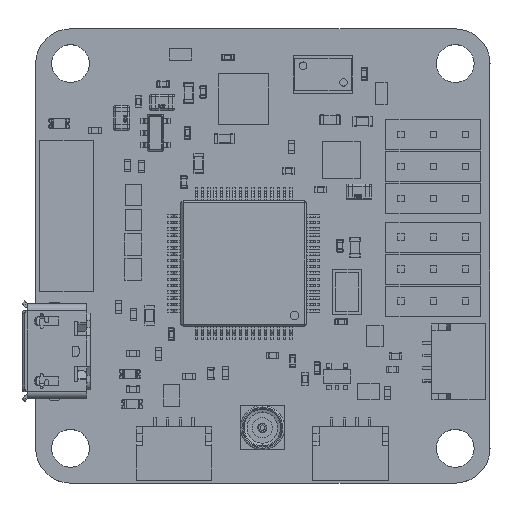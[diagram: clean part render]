
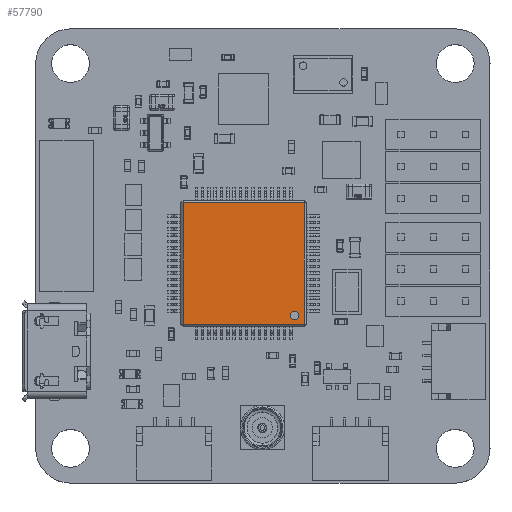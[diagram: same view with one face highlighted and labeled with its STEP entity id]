
A CAD part, top view. The second image highlights one B-rep face of the part: STEP entity #57790.
In plain terms, the highlighted planar face has unit normal (0, 0, 1).
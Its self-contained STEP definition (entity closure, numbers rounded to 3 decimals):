
#49950 = CYLINDRICAL_SURFACE('',#49951,0.346);
#49951 = AXIS2_PLACEMENT_3D('',#49952,#49953,#49954);
#49952 = CARTESIAN_POINT('',(0.879,0.959,1.1));
#49953 = DIRECTION('',(0.,0.,1.));
#49954 = DIRECTION('',(1.,0.,0.));
#49974 = VERTEX_POINT('',#49975);
#49975 = CARTESIAN_POINT('',(1.225,0.959,1.4));
#49988 = CYLINDRICAL_SURFACE('',#49989,0.346);
#49989 = AXIS2_PLACEMENT_3D('',#49990,#49991,#49992);
#49990 = CARTESIAN_POINT('',(0.879,0.959,1.1));
#49991 = DIRECTION('',(0.,0.,1.));
#49992 = DIRECTION('',(1.,0.,0.));
#49999 = EDGE_CURVE('',#50000,#49974,#50002,.T.);
#50000 = VERTEX_POINT('',#50001);
#50001 = CARTESIAN_POINT('',(0.533,0.959,1.4));
#50002 = SURFACE_CURVE('',#50003,(#50008,#50014),.PCURVE_S1.);
#50003 = CIRCLE('',#50004,0.346);
#50004 = AXIS2_PLACEMENT_3D('',#50005,#50006,#50007);
#50005 = CARTESIAN_POINT('',(0.879,0.959,1.4));
#50006 = DIRECTION('',(0.,0.,1.));
#50007 = DIRECTION('',(1.,0.,0.));
#50008 = PCURVE('',#49950,#50009);
#50009 = DEFINITIONAL_REPRESENTATION('',(#50010),#50013);
#50010 = B_SPLINE_CURVE_WITH_KNOTS('',1,(#50011,#50012),.UNSPECIFIED.,
  .F.,.F.,(2,2),(3.142,6.283),.PIECEWISE_BEZIER_KNOTS.);
#50011 = CARTESIAN_POINT('',(3.142,0.3));
#50012 = CARTESIAN_POINT('',(6.283,0.3));
#50013 = ( GEOMETRIC_REPRESENTATION_CONTEXT(2) 
PARAMETRIC_REPRESENTATION_CONTEXT() REPRESENTATION_CONTEXT('2D SPACE',''
  ) );
#50014 = PCURVE('',#50015,#50020);
#50015 = PLANE('',#50016);
#50016 = AXIS2_PLACEMENT_3D('',#50017,#50018,#50019);
#50017 = CARTESIAN_POINT('',(0.,10.,1.4));
#50018 = DIRECTION('',(0.,0.,-1.));
#50019 = DIRECTION('',(-1.,0.,0.));
#50020 = DEFINITIONAL_REPRESENTATION('',(#50021),#50029);
#50021 = ( BOUNDED_CURVE() B_SPLINE_CURVE(2,(#50022,#50023,#50024,#50025
    ,#50026,#50027,#50028),.UNSPECIFIED.,.T.,.F.) 
B_SPLINE_CURVE_WITH_KNOTS((1,2,2,2,2,1),(-2.094,0.,
    2.094,4.189,6.283,8.378),
.UNSPECIFIED.) CURVE() GEOMETRIC_REPRESENTATION_ITEM() 
RATIONAL_B_SPLINE_CURVE((1.,0.5,1.,0.5,1.,0.5,1.)) REPRESENTATION_ITEM(
  '') );
#50022 = CARTESIAN_POINT('',(-1.225,-9.041));
#50023 = CARTESIAN_POINT('',(-1.225,-8.442));
#50024 = CARTESIAN_POINT('',(-0.706,-8.742));
#50025 = CARTESIAN_POINT('',(-0.187,-9.041));
#50026 = CARTESIAN_POINT('',(-0.706,-9.341));
#50027 = CARTESIAN_POINT('',(-1.225,-9.64));
#50028 = CARTESIAN_POINT('',(-1.225,-9.041));
#50029 = ( GEOMETRIC_REPRESENTATION_CONTEXT(2) 
PARAMETRIC_REPRESENTATION_CONTEXT() REPRESENTATION_CONTEXT('2D SPACE',''
  ) );
#50132 = PLANE('',#50133);
#50133 = AXIS2_PLACEMENT_3D('',#50134,#50135,#50136);
#50134 = CARTESIAN_POINT('',(0.,9.8,1.4));
#50135 = DIRECTION('',(0.,-0.707,-0.707));
#50136 = DIRECTION('',(0.,0.707,-0.707));
#52932 = PLANE('',#52933);
#52933 = AXIS2_PLACEMENT_3D('',#52934,#52935,#52936);
#52934 = CARTESIAN_POINT('',(0.,0.2,1.4));
#52935 = DIRECTION('',(0.,0.707,-0.707));
#52936 = DIRECTION('',(0.,0.707,0.707));
#55829 = PLANE('',#55830);
#55830 = AXIS2_PLACEMENT_3D('',#55831,#55832,#55833);
#55831 = CARTESIAN_POINT('',(0.2,10.,1.4));
#55832 = DIRECTION('',(0.707,0.,-0.707));
#55833 = DIRECTION('',(-0.707,0.,-0.707));
#57712 = PLANE('',#57713);
#57713 = AXIS2_PLACEMENT_3D('',#57714,#57715,#57716);
#57714 = CARTESIAN_POINT('',(9.8,10.,1.4));
#57715 = DIRECTION('',(-0.707,0.,-0.707));
#57716 = DIRECTION('',(-0.707,0.,0.707));
#57790 = ADVANCED_FACE('',(#57791,#57819),#50015,.F.);
#57791 = FACE_BOUND('',#57792,.T.);
#57792 = EDGE_LOOP('',(#57793,#57818));
#57793 = ORIENTED_EDGE('',*,*,#57794,.F.);
#57794 = EDGE_CURVE('',#49974,#50000,#57795,.T.);
#57795 = SURFACE_CURVE('',#57796,(#57801,#57812),.PCURVE_S1.);
#57796 = CIRCLE('',#57797,0.346);
#57797 = AXIS2_PLACEMENT_3D('',#57798,#57799,#57800);
#57798 = CARTESIAN_POINT('',(0.879,0.959,1.4));
#57799 = DIRECTION('',(0.,0.,1.));
#57800 = DIRECTION('',(1.,0.,0.));
#57801 = PCURVE('',#50015,#57802);
#57802 = DEFINITIONAL_REPRESENTATION('',(#57803),#57811);
#57803 = ( BOUNDED_CURVE() B_SPLINE_CURVE(2,(#57804,#57805,#57806,#57807
    ,#57808,#57809,#57810),.UNSPECIFIED.,.T.,.F.) 
B_SPLINE_CURVE_WITH_KNOTS((1,2,2,2,2,1),(-2.094,0.,
    2.094,4.189,6.283,8.378),
.UNSPECIFIED.) CURVE() GEOMETRIC_REPRESENTATION_ITEM() 
RATIONAL_B_SPLINE_CURVE((1.,0.5,1.,0.5,1.,0.5,1.)) REPRESENTATION_ITEM(
  '') );
#57804 = CARTESIAN_POINT('',(-1.225,-9.041));
#57805 = CARTESIAN_POINT('',(-1.225,-8.442));
#57806 = CARTESIAN_POINT('',(-0.706,-8.742));
#57807 = CARTESIAN_POINT('',(-0.187,-9.041));
#57808 = CARTESIAN_POINT('',(-0.706,-9.341));
#57809 = CARTESIAN_POINT('',(-1.225,-9.64));
#57810 = CARTESIAN_POINT('',(-1.225,-9.041));
#57811 = ( GEOMETRIC_REPRESENTATION_CONTEXT(2) 
PARAMETRIC_REPRESENTATION_CONTEXT() REPRESENTATION_CONTEXT('2D SPACE',''
  ) );
#57812 = PCURVE('',#49988,#57813);
#57813 = DEFINITIONAL_REPRESENTATION('',(#57814),#57817);
#57814 = B_SPLINE_CURVE_WITH_KNOTS('',1,(#57815,#57816),.UNSPECIFIED.,
  .F.,.F.,(2,2),(0.,3.142),.PIECEWISE_BEZIER_KNOTS.);
#57815 = CARTESIAN_POINT('',(0.,0.3));
#57816 = CARTESIAN_POINT('',(3.142,0.3));
#57817 = ( GEOMETRIC_REPRESENTATION_CONTEXT(2) 
PARAMETRIC_REPRESENTATION_CONTEXT() REPRESENTATION_CONTEXT('2D SPACE',''
  ) );
#57818 = ORIENTED_EDGE('',*,*,#49999,.F.);
#57819 = FACE_BOUND('',#57820,.T.);
#57820 = EDGE_LOOP('',(#57821,#57846,#57869,#57892));
#57821 = ORIENTED_EDGE('',*,*,#57822,.T.);
#57822 = EDGE_CURVE('',#57823,#57825,#57827,.T.);
#57823 = VERTEX_POINT('',#57824);
#57824 = CARTESIAN_POINT('',(0.2,9.8,1.4));
#57825 = VERTEX_POINT('',#57826);
#57826 = CARTESIAN_POINT('',(0.2,0.2,1.4));
#57827 = SURFACE_CURVE('',#57828,(#57832,#57839),.PCURVE_S1.);
#57828 = LINE('',#57829,#57830);
#57829 = CARTESIAN_POINT('',(0.2,10.,1.4));
#57830 = VECTOR('',#57831,1.);
#57831 = DIRECTION('',(0.,-1.,0.));
#57832 = PCURVE('',#50015,#57833);
#57833 = DEFINITIONAL_REPRESENTATION('',(#57834),#57838);
#57834 = LINE('',#57835,#57836);
#57835 = CARTESIAN_POINT('',(-0.2,0.));
#57836 = VECTOR('',#57837,1.);
#57837 = DIRECTION('',(0.,-1.));
#57838 = ( GEOMETRIC_REPRESENTATION_CONTEXT(2) 
PARAMETRIC_REPRESENTATION_CONTEXT() REPRESENTATION_CONTEXT('2D SPACE',''
  ) );
#57839 = PCURVE('',#55829,#57840);
#57840 = DEFINITIONAL_REPRESENTATION('',(#57841),#57845);
#57841 = LINE('',#57842,#57843);
#57842 = CARTESIAN_POINT('',(0.,0.));
#57843 = VECTOR('',#57844,1.);
#57844 = DIRECTION('',(0.,-1.));
#57845 = ( GEOMETRIC_REPRESENTATION_CONTEXT(2) 
PARAMETRIC_REPRESENTATION_CONTEXT() REPRESENTATION_CONTEXT('2D SPACE',''
  ) );
#57846 = ORIENTED_EDGE('',*,*,#57847,.T.);
#57847 = EDGE_CURVE('',#57825,#57848,#57850,.T.);
#57848 = VERTEX_POINT('',#57849);
#57849 = CARTESIAN_POINT('',(9.8,0.2,1.4));
#57850 = SURFACE_CURVE('',#57851,(#57855,#57862),.PCURVE_S1.);
#57851 = LINE('',#57852,#57853);
#57852 = CARTESIAN_POINT('',(0.,0.2,1.4));
#57853 = VECTOR('',#57854,1.);
#57854 = DIRECTION('',(1.,0.,0.));
#57855 = PCURVE('',#50015,#57856);
#57856 = DEFINITIONAL_REPRESENTATION('',(#57857),#57861);
#57857 = LINE('',#57858,#57859);
#57858 = CARTESIAN_POINT('',(0.,-9.8));
#57859 = VECTOR('',#57860,1.);
#57860 = DIRECTION('',(-1.,0.));
#57861 = ( GEOMETRIC_REPRESENTATION_CONTEXT(2) 
PARAMETRIC_REPRESENTATION_CONTEXT() REPRESENTATION_CONTEXT('2D SPACE',''
  ) );
#57862 = PCURVE('',#52932,#57863);
#57863 = DEFINITIONAL_REPRESENTATION('',(#57864),#57868);
#57864 = LINE('',#57865,#57866);
#57865 = CARTESIAN_POINT('',(0.,0.));
#57866 = VECTOR('',#57867,1.);
#57867 = DIRECTION('',(0.,1.));
#57868 = ( GEOMETRIC_REPRESENTATION_CONTEXT(2) 
PARAMETRIC_REPRESENTATION_CONTEXT() REPRESENTATION_CONTEXT('2D SPACE',''
  ) );
#57869 = ORIENTED_EDGE('',*,*,#57870,.T.);
#57870 = EDGE_CURVE('',#57848,#57871,#57873,.T.);
#57871 = VERTEX_POINT('',#57872);
#57872 = CARTESIAN_POINT('',(9.8,9.8,1.4));
#57873 = SURFACE_CURVE('',#57874,(#57878,#57885),.PCURVE_S1.);
#57874 = LINE('',#57875,#57876);
#57875 = CARTESIAN_POINT('',(9.8,10.,1.4));
#57876 = VECTOR('',#57877,1.);
#57877 = DIRECTION('',(0.,1.,0.));
#57878 = PCURVE('',#50015,#57879);
#57879 = DEFINITIONAL_REPRESENTATION('',(#57880),#57884);
#57880 = LINE('',#57881,#57882);
#57881 = CARTESIAN_POINT('',(-9.8,0.));
#57882 = VECTOR('',#57883,1.);
#57883 = DIRECTION('',(0.,1.));
#57884 = ( GEOMETRIC_REPRESENTATION_CONTEXT(2) 
PARAMETRIC_REPRESENTATION_CONTEXT() REPRESENTATION_CONTEXT('2D SPACE',''
  ) );
#57885 = PCURVE('',#57712,#57886);
#57886 = DEFINITIONAL_REPRESENTATION('',(#57887),#57891);
#57887 = LINE('',#57888,#57889);
#57888 = CARTESIAN_POINT('',(0.,0.));
#57889 = VECTOR('',#57890,1.);
#57890 = DIRECTION('',(0.,1.));
#57891 = ( GEOMETRIC_REPRESENTATION_CONTEXT(2) 
PARAMETRIC_REPRESENTATION_CONTEXT() REPRESENTATION_CONTEXT('2D SPACE',''
  ) );
#57892 = ORIENTED_EDGE('',*,*,#57893,.T.);
#57893 = EDGE_CURVE('',#57871,#57823,#57894,.T.);
#57894 = SURFACE_CURVE('',#57895,(#57899,#57906),.PCURVE_S1.);
#57895 = LINE('',#57896,#57897);
#57896 = CARTESIAN_POINT('',(0.,9.8,1.4));
#57897 = VECTOR('',#57898,1.);
#57898 = DIRECTION('',(-1.,0.,0.));
#57899 = PCURVE('',#50015,#57900);
#57900 = DEFINITIONAL_REPRESENTATION('',(#57901),#57905);
#57901 = LINE('',#57902,#57903);
#57902 = CARTESIAN_POINT('',(0.,-0.2));
#57903 = VECTOR('',#57904,1.);
#57904 = DIRECTION('',(1.,0.));
#57905 = ( GEOMETRIC_REPRESENTATION_CONTEXT(2) 
PARAMETRIC_REPRESENTATION_CONTEXT() REPRESENTATION_CONTEXT('2D SPACE',''
  ) );
#57906 = PCURVE('',#50132,#57907);
#57907 = DEFINITIONAL_REPRESENTATION('',(#57908),#57912);
#57908 = LINE('',#57909,#57910);
#57909 = CARTESIAN_POINT('',(0.,0.));
#57910 = VECTOR('',#57911,1.);
#57911 = DIRECTION('',(0.,-1.));
#57912 = ( GEOMETRIC_REPRESENTATION_CONTEXT(2) 
PARAMETRIC_REPRESENTATION_CONTEXT() REPRESENTATION_CONTEXT('2D SPACE',''
  ) );
